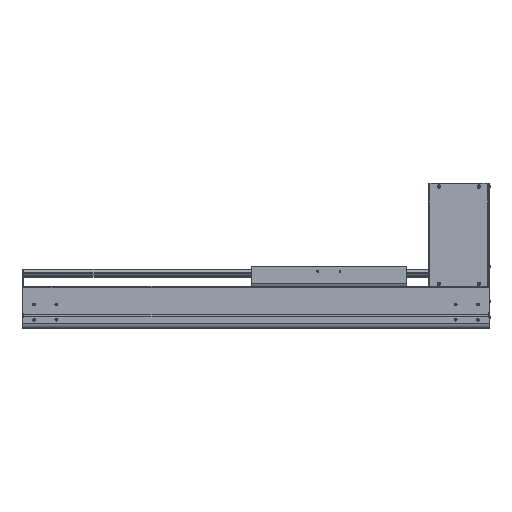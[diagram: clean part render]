
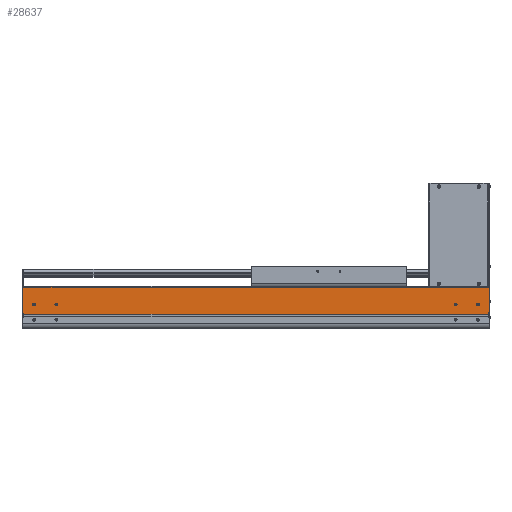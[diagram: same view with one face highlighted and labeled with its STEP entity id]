
A CAD part, top view. The second image highlights one B-rep face of the part: STEP entity #28637.
In plain terms, the highlighted planar face has unit normal (0, 0, 1).
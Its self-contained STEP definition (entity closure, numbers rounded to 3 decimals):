
#603=CARTESIAN_POINT('',(0.,94.,107.));
#7919=DIRECTION('',(-1.,0.,0.));
#7920=VECTOR('',#7919,1048.5);
#7921=CARTESIAN_POINT('',(0.,93.5,107.));
#7922=LINE('',#7921,#7920);
#7949=CARTESIAN_POINT('',(-1023.5,54.,107.));
#7950=DIRECTION('',(0.,0.,-1.));
#7951=DIRECTION('',(1.,0.,0.));
#7952=AXIS2_PLACEMENT_3D('',#7949,#7950,#7951);
#7954=CARTESIAN_POINT('',(-1023.5,54.,107.));
#7955=DIRECTION('',(0.,0.,-1.));
#7956=DIRECTION('',(-1.,0.,0.));
#7957=AXIS2_PLACEMENT_3D('',#7954,#7955,#7956);
#7959=CARTESIAN_POINT('',(-973.5,54.,107.));
#7960=DIRECTION('',(0.,0.,-1.));
#7961=DIRECTION('',(1.,0.,0.));
#7962=AXIS2_PLACEMENT_3D('',#7959,#7960,#7961);
#7964=CARTESIAN_POINT('',(-973.5,54.,107.));
#7965=DIRECTION('',(0.,0.,-1.));
#7966=DIRECTION('',(-1.,0.,0.));
#7967=AXIS2_PLACEMENT_3D('',#7964,#7965,#7966);
#7969=CARTESIAN_POINT('',(-23.5,54.,107.));
#7970=DIRECTION('',(0.,0.,-1.));
#7971=DIRECTION('',(1.,0.,0.));
#7972=AXIS2_PLACEMENT_3D('',#7969,#7970,#7971);
#7974=CARTESIAN_POINT('',(-23.5,54.,107.));
#7975=DIRECTION('',(0.,0.,-1.));
#7976=DIRECTION('',(-1.,0.,0.));
#7977=AXIS2_PLACEMENT_3D('',#7974,#7975,#7976);
#7979=CARTESIAN_POINT('',(-73.5,54.,107.));
#7980=DIRECTION('',(0.,0.,-1.));
#7981=DIRECTION('',(1.,0.,0.));
#7982=AXIS2_PLACEMENT_3D('',#7979,#7980,#7981);
#7984=CARTESIAN_POINT('',(-73.5,54.,107.));
#7985=DIRECTION('',(0.,0.,-1.));
#7986=DIRECTION('',(-1.,0.,0.));
#7987=AXIS2_PLACEMENT_3D('',#7984,#7985,#7986);
#7989=DIRECTION('',(0.,-1.,0.));
#7990=VECTOR('',#7989,2.55);
#7991=CARTESIAN_POINT('',(-1046.5,34.65,107.));
#7992=LINE('',#7991,#7990);
#7993=DIRECTION('',(0.,-1.,0.));
#7994=VECTOR('',#7993,58.85);
#7995=CARTESIAN_POINT('',(-1048.5,93.5,107.));
#7996=LINE('',#7995,#7994);
#7997=DIRECTION('',(0.,-1.,0.));
#7998=VECTOR('',#7997,0.5);
#7999=CARTESIAN_POINT('',(0.,94.,107.));
#8000=LINE('',#7999,#7998);
#8001=DIRECTION('',(0.,1.,0.));
#8002=VECTOR('',#8001,58.35);
#8003=CARTESIAN_POINT('',(1.5,35.65,107.));
#8004=LINE('',#8003,#8002);
#8005=DIRECTION('',(0.,1.,0.));
#8006=VECTOR('',#8005,3.55);
#8007=CARTESIAN_POINT('',(0.,32.1,107.));
#8008=LINE('',#8007,#8006);
#8009=DIRECTION('',(1.,0.,0.));
#8010=VECTOR('',#8009,1046.5);
#8011=CARTESIAN_POINT('',(-1046.5,32.1,107.));
#8012=LINE('',#8011,#8010);
#8121=DIRECTION('',(1.,0.,0.));
#8122=VECTOR('',#8121,2.);
#8123=CARTESIAN_POINT('',(-1048.5,34.65,107.));
#8124=LINE('',#8123,#8122);
#8149=DIRECTION('',(-1.,0.,0.));
#8150=VECTOR('',#8149,1.5);
#8151=CARTESIAN_POINT('',(1.5,94.,107.));
#8152=LINE('',#8151,#8150);
#8153=DIRECTION('',(1.,0.,0.));
#8154=VECTOR('',#8153,1.5);
#8155=CARTESIAN_POINT('',(0.,35.65,107.));
#8156=LINE('',#8155,#8154);
#14592=CARTESIAN_POINT('',(1.5,94.,107.));
#14593=VERTEX_POINT('',#14592);
#14594=CARTESIAN_POINT('',(1.5,35.65,107.));
#14595=VERTEX_POINT('',#14594);
#14636=VERTEX_POINT('',#603);
#14668=CARTESIAN_POINT('',(-1048.5,34.65,107.));
#14669=VERTEX_POINT('',#14668);
#14670=CARTESIAN_POINT('',(-1048.5,93.5,107.));
#14671=VERTEX_POINT('',#14670);
#14896=CARTESIAN_POINT('',(-1046.5,32.1,107.));
#14897=VERTEX_POINT('',#14896);
#14947=CARTESIAN_POINT('',(0.,32.1,107.));
#14949=VERTEX_POINT('',#14947);
#15354=CARTESIAN_POINT('',(-1021.,54.,107.));
#15355=CARTESIAN_POINT('',(-1026.,54.,107.));
#15356=VERTEX_POINT('',#15354);
#15357=VERTEX_POINT('',#15355);
#15358=CARTESIAN_POINT('',(-971.,54.,107.));
#15359=CARTESIAN_POINT('',(-976.,54.,107.));
#15360=VERTEX_POINT('',#15358);
#15361=VERTEX_POINT('',#15359);
#15362=CARTESIAN_POINT('',(-21.,54.,107.));
#15363=CARTESIAN_POINT('',(-26.,54.,107.));
#15364=VERTEX_POINT('',#15362);
#15365=VERTEX_POINT('',#15363);
#15366=CARTESIAN_POINT('',(-71.,54.,107.));
#15367=CARTESIAN_POINT('',(-76.,54.,107.));
#15368=VERTEX_POINT('',#15366);
#15369=VERTEX_POINT('',#15367);
#17160=CARTESIAN_POINT('',(0.,35.65,107.));
#17161=VERTEX_POINT('',#17160);
#17406=CARTESIAN_POINT('',(0.,93.5,107.));
#17407=VERTEX_POINT('',#17406);
#17749=CARTESIAN_POINT('',(-1046.5,34.65,107.));
#17750=VERTEX_POINT('',#17749);
#28592=CARTESIAN_POINT('',(-523.25,62.8,107.));
#28593=DIRECTION('',(0.,0.,1.));
#28594=DIRECTION('',(0.,-1.,0.));
#28595=AXIS2_PLACEMENT_3D('',#28592,#28593,#28594);
#28596=PLANE('',#28595);
#28597=ORIENTED_EDGE('',*,*,#19939,.F.);
#28599=ORIENTED_EDGE('',*,*,#28598,.F.);
#28600=ORIENTED_EDGE('',*,*,#26210,.F.);
#28601=ORIENTED_EDGE('',*,*,#28581,.F.);
#28602=ORIENTED_EDGE('',*,*,#19052,.F.);
#28604=ORIENTED_EDGE('',*,*,#28603,.F.);
#28605=ORIENTED_EDGE('',*,*,#20938,.F.);
#28607=ORIENTED_EDGE('',*,*,#28606,.F.);
#28608=ORIENTED_EDGE('',*,*,#20700,.F.);
#28610=ORIENTED_EDGE('',*,*,#28609,.F.);
#28611=EDGE_LOOP('',(#28597,#28599,#28600,#28601,#28602,#28604,#28605,#28607,
#28608,#28610));
#28612=FACE_OUTER_BOUND('',#28611,.F.);
#28614=ORIENTED_EDGE('',*,*,#28613,.F.);
#28616=ORIENTED_EDGE('',*,*,#28615,.F.);
#28617=EDGE_LOOP('',(#28614,#28616));
#28618=FACE_BOUND('',#28617,.F.);
#28620=ORIENTED_EDGE('',*,*,#28619,.F.);
#28622=ORIENTED_EDGE('',*,*,#28621,.F.);
#28623=EDGE_LOOP('',(#28620,#28622));
#28624=FACE_BOUND('',#28623,.F.);
#28626=ORIENTED_EDGE('',*,*,#28625,.F.);
#28628=ORIENTED_EDGE('',*,*,#28627,.F.);
#28629=EDGE_LOOP('',(#28626,#28628));
#28630=FACE_BOUND('',#28629,.F.);
#28632=ORIENTED_EDGE('',*,*,#28631,.F.);
#28634=ORIENTED_EDGE('',*,*,#28633,.F.);
#28635=EDGE_LOOP('',(#28632,#28634));
#28636=FACE_BOUND('',#28635,.F.);
#28637=ADVANCED_FACE('',(#28612,#28618,#28624,#28630,#28636),#28596,.T.);
#7953=CIRCLE('',#7952,2.5);
#7958=CIRCLE('',#7957,2.5);
#7963=CIRCLE('',#7962,2.5);
#7968=CIRCLE('',#7967,2.5);
#7973=CIRCLE('',#7972,2.5);
#7978=CIRCLE('',#7977,2.5);
#7983=CIRCLE('',#7982,2.5);
#7988=CIRCLE('',#7987,2.5);
#19052=EDGE_CURVE('',#14636,#17407,#8000,.T.);
#19939=EDGE_CURVE('',#17750,#14897,#7992,.T.);
#20700=EDGE_CURVE('',#14949,#17161,#8008,.T.);
#20938=EDGE_CURVE('',#14595,#14593,#8004,.T.);
#26210=EDGE_CURVE('',#14671,#14669,#7996,.T.);
#28581=EDGE_CURVE('',#17407,#14671,#7922,.T.);
#28598=EDGE_CURVE('',#14669,#17750,#8124,.T.);
#28603=EDGE_CURVE('',#14593,#14636,#8152,.T.);
#28606=EDGE_CURVE('',#17161,#14595,#8156,.T.);
#28609=EDGE_CURVE('',#14897,#14949,#8012,.T.);
#28613=EDGE_CURVE('',#15360,#15361,#7963,.T.);
#28615=EDGE_CURVE('',#15361,#15360,#7968,.T.);
#28619=EDGE_CURVE('',#15364,#15365,#7973,.T.);
#28621=EDGE_CURVE('',#15365,#15364,#7978,.T.);
#28625=EDGE_CURVE('',#15368,#15369,#7983,.T.);
#28627=EDGE_CURVE('',#15369,#15368,#7988,.T.);
#28631=EDGE_CURVE('',#15356,#15357,#7953,.T.);
#28633=EDGE_CURVE('',#15357,#15356,#7958,.T.);
